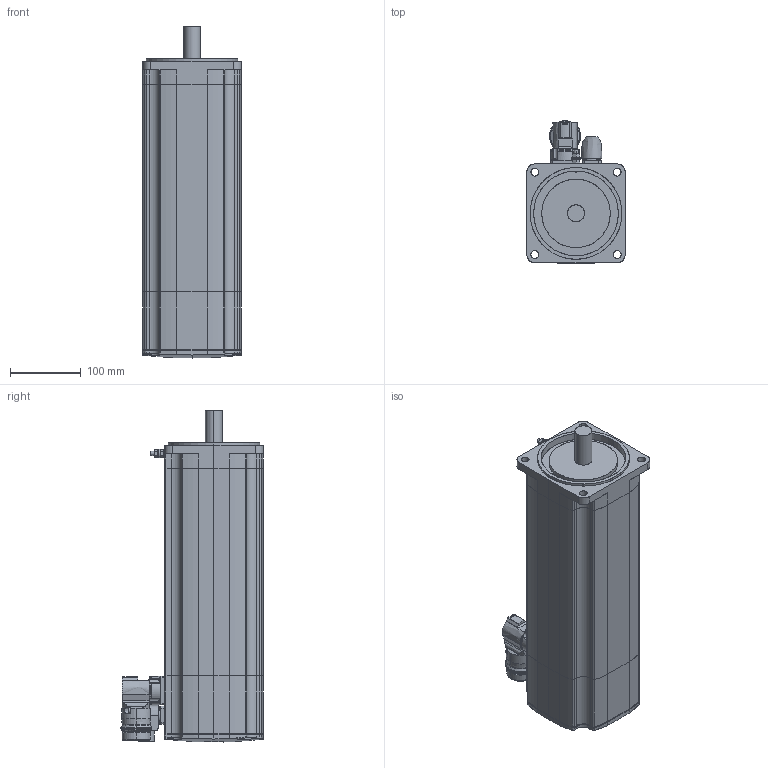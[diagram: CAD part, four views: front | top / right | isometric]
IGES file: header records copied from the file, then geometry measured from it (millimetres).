
Start section: SolidWorks IGES file using analytic representation for surfaces
Global section: file name: C:\PDM\SW-SAP\AA-IGES\SH31404x0xF2100.IGS; native system: SolidWorks 2010; preprocessor: SolidWorks 2010; author: SESA21951; date: 131129.113409; units: millimetre
Bounding box: 140 x 202 x 470.35 mm (x, y, z)
Surface area: 434371.3 mm2 (no closed solid volume)
Topology: 0 solids, 0 shells, 759 faces, 9875 edges, 9856 vertices
Faces by surface type: bspline 387, revolution 372
